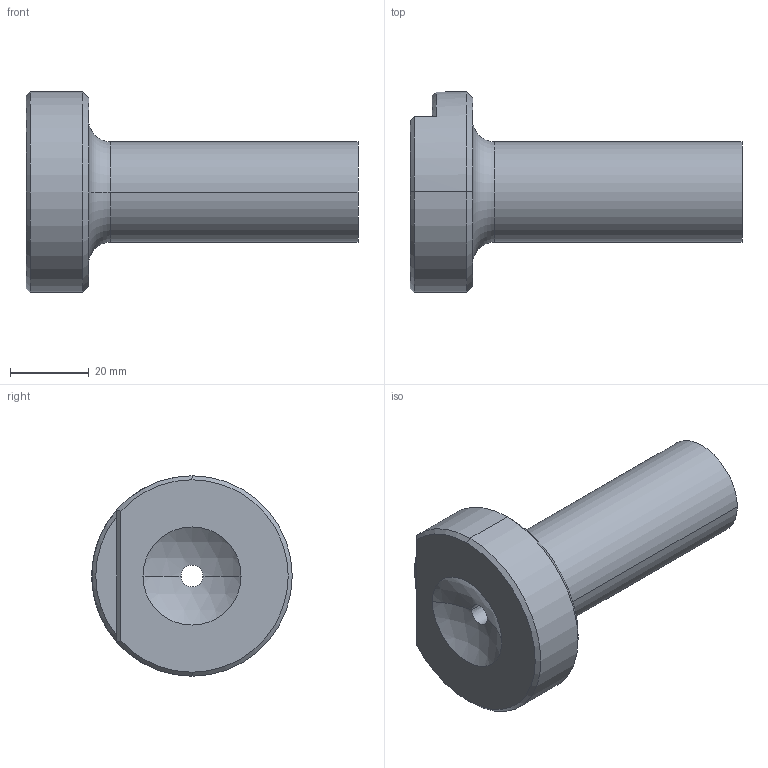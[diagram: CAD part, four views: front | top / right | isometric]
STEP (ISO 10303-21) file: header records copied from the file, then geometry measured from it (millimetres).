
FILE_DESCRIPTION (( 'STEP AP203' ), '1' );
FILE_NAME ('SPRA4-734.step', '2020-08-24T14:19:18', ( 'Microsoft Corporation' ), ( 'MS' ), 'SwSTEP 2.0', 'SolidWorks 2018', '' );
FILE_SCHEMA (( 'CONFIG_CONTROL_DESIGN' ));
Length unit declared in the file: inch
Products named in the file (1): SPRA4-734
Bounding box: 84.14 x 50.8 x 50.8 mm (x, y, z)
Volume: 61679.9 mm3; surface area: 13385.5 mm2
Topology: 1 solids, 1 shells, 22 faces, 47 edges, 28 vertices
Faces by surface type: cone 8, plane 6, cylinder 4, torus 2, sphere 2
Entity records: 686 total; most frequent: DIRECTION 117, CARTESIAN_POINT 110, ORIENTED_EDGE 94, AXIS2_PLACEMENT_3D 51, EDGE_CURVE 47, CIRCLE 28, VERTEX_POINT 28, EDGE_LOOP 25
